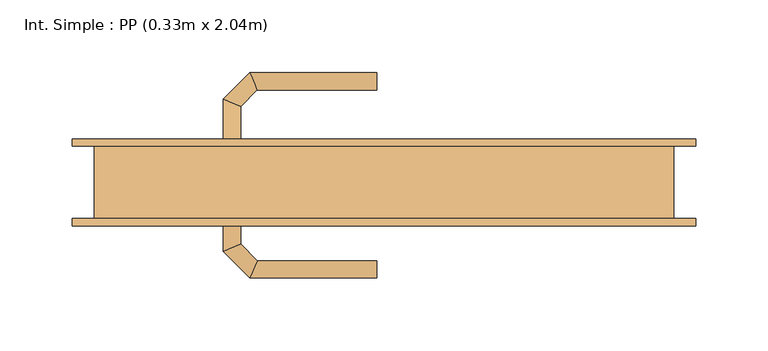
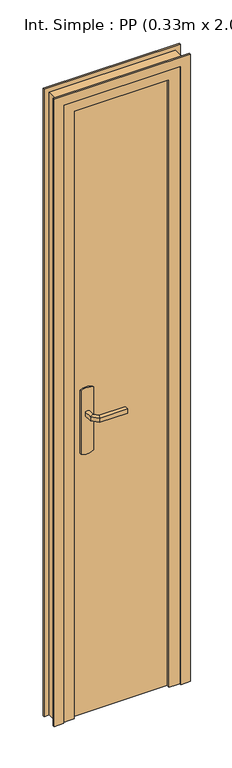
"""IFC4 building model written with IfcOpenShell, lengths in millimetres: door geometry, Int. Simple : PP (0.33m x 2.04m)."""

from ifc_helpers import new_model, si_unit, point, frame, frame_2d, origin, origin_with_axes, place, context, project, spatial, polyline, circle_curve, ellipse_curve, trimmed, segment, composite_curve, outline, extrude, faceted_brep, source, transform, mapped, element, save
from ifc_brep_helpers import plane_surface, cylinder_surface, advanced_brep


def int_simple_pp_0_33m_x_2_04m_a2b4a157(model_context):
    return source(origin(), model_context, "Body", "SolidModel", [
        extrude(outline(composite_curve([segment(trimmed(circle_curve(frame_2d((904.6410162, -140.0)), 40.0), [point((870.0, -160.0))], [point((870.0, -120.0))], False, "CARTESIAN"), True, "CONTINUOUS"), segment(polyline([(870.0, -120.0), (1080.0, -120.0)]), True, "CONTINUOUS"), segment(trimmed(circle_curve(frame_2d((1045.3589838, -140.0)), 40.0), [point((1080.0, -120.0))], [point((1080.0, -160.0))], False, "CARTESIAN"), True, "CONTINUOUS"), segment(polyline([(1080.0, -160.0), (870.0, -160.0)]), True, "CONTINUOUS")], self_intersect=False)), frame((0.0, 25.0, 0.0), z_axis=(0.0, 1.0, 0.0), x_axis=(0.0, 0.0, 1.0)), (0.0, 0.0, 1.0), 5.0),
        extrude(outline(composite_curve([segment(trimmed(circle_curve(frame_2d((1045.3589838, -140.0)), 40.0), [point((1080.0, -120.0))], [point((1080.0, -160.0))], False, "CARTESIAN"), True, "CONTINUOUS"), segment(polyline([(1080.0, -160.0), (870.0, -160.0)]), True, "CONTINUOUS"), segment(trimmed(circle_curve(frame_2d((904.6410162, -140.0)), 40.0), [point((870.0, -160.0))], [point((870.0, -120.0))], False, "CARTESIAN"), True, "CONTINUOUS"), segment(polyline([(870.0, -120.0), (1080.0, -120.0)]), True, "CONTINUOUS")], self_intersect=False)), frame((0.0, -20.0, 0.0), z_axis=(0.0, 1.0, 0.0), x_axis=(0.0, 0.0, 1.0)), (0.0, 0.0, 1.0), 5.0),
        advanced_brep(
        [(-146.0, 30.0, 1007.0), (-146.0, 30.0, 993.0), (-134.0, 30.0, 993.0), (-134.0, 30.0, 1007.0), (-134.0, 52.680388, 1007.0), (-146.0, 57.6509507, 1007.0), (-134.0, 52.680388, 993.0), (-146.0, 57.6509507, 993.0), (-122.6522273, 64.0281607, 1007.0), (-127.62279, 76.0281607, 1007.0), (-122.6522273, 64.0281607, 993.0), (-127.62279, 76.0281607, 993.0), (-39.9813594, 76.0281607, 1007.0), (-39.9813594, 64.0281607, 1007.0), (-39.9813594, 64.0281607, 993.0), (-39.9813594, 76.0281607, 993.0)],
        [
            (0, 1),
            (1, 2, circle_curve(frame((-140.0, 30.0, 1013.0457722), z_axis=(0.0, -1.0, 0.0), x_axis=(1.0, 0.0, 0.0)), 20.9244589)),
            (2, 3),
            (3, 0, circle_curve(frame((-140.0, 30.0, 986.9542278), z_axis=(0.0, -1.0, 0.0), x_axis=(1.0, 0.0, 0.0)), 20.9244589)),
            (3, 4),
            (4, 5, ellipse_curve(frame((-140.0, 55.1656693, 986.9542278), z_axis=(-0.3826834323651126, -0.9238795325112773, 0.0), x_axis=(0.9238795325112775, -0.38268343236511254, 0.0)), 22.6484711, 20.9244589)),
            (5, 0),
            (2, 6),
            (6, 4),
            (1, 7),
            (7, 6, ellipse_curve(frame((-140.0, 55.1656693, 1013.0457722), z_axis=(-0.3826834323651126, -0.9238795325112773, 0.0), x_axis=(0.9238795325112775, -0.38268343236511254, 0.0)), 22.6484711, 20.9244589)),
            (5, 7),
            (4, 8),
            (8, 9, ellipse_curve(frame((-125.1375086, 70.0281607, 986.9542278), z_axis=(-0.9238795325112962, -0.38268343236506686, 0.0), x_axis=(0.3826834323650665, -0.9238795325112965, 0.0)), 22.6484711, 20.9244589)),
            (9, 5),
            (6, 10),
            (10, 8),
            (7, 11),
            (11, 10, ellipse_curve(frame((-125.1375086, 70.0281607, 1013.0457722), z_axis=(-0.9238795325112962, -0.38268343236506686, 0.0), x_axis=(0.3826834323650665, -0.9238795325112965, 0.0)), 22.6484711, 20.9244589)),
            (9, 11),
            (12, 13, circle_curve(frame((-39.9813594, 70.0281607, 986.9542278), z_axis=(1.0, 0.0, 0.0), x_axis=(0.0, -1.0, 0.0)), 20.9244589)),
            (13, 14),
            (14, 15, circle_curve(frame((-39.9813594, 70.0281607, 1013.0457722), z_axis=(1.0, 0.0, 0.0), x_axis=(0.0, -1.0, 0.0)), 20.9244589)),
            (15, 12),
            (8, 13),
            (12, 9),
            (10, 14),
            (11, 15),
        ],
        [
            plane_surface(frame((-149.2195445, 30.0, 1000.0), z_axis=(0.0, -1.0, 0.0), x_axis=(0.0, 0.0, -1.0))),
            cylinder_surface(frame((-140.0, 30.0, 986.9542278), z_axis=(0.0, -1.0, 0.0), x_axis=(1.0, 0.0, 0.0)), 20.9244589),
            plane_surface(frame((-134.0, 30.0, 1007.0), z_axis=(1.0, 0.0, 0.0), x_axis=(0.0, 1.0, 0.0))),
            cylinder_surface(frame((-140.0, 30.0, 1013.0457722), z_axis=(0.0, -1.0, 0.0), x_axis=(1.0, 0.0, 0.0)), 20.9244589),
            plane_surface(frame((-146.0, 30.0, 993.0), z_axis=(-1.0, 0.0, 0.0), x_axis=(0.0, 1.0, 0.0))),
            cylinder_surface(frame((-140.0, 55.1656693, 986.9542278), z_axis=(-0.7071067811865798, -0.7071067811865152, 0.0), x_axis=(0.7071067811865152, -0.7071067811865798, 0.0)), 20.9244589),
            plane_surface(frame((-134.0, 52.680388, 1007.0), z_axis=(0.7071067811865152, -0.7071067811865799, 0.0), x_axis=(0.7071067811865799, 0.7071067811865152, 0.0))),
            cylinder_surface(frame((-140.0, 55.1656693, 1013.0457722), z_axis=(-0.7071067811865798, -0.7071067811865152, 0.0), x_axis=(0.7071067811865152, -0.7071067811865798, 0.0)), 20.9244589),
            plane_surface(frame((-146.0, 57.6509507, 993.0), z_axis=(-0.7071067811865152, 0.7071067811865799, 0.0), x_axis=(0.7071067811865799, 0.7071067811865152, 0.0))),
            plane_surface(frame((-39.9813594, 70.0281607, 990.7804555), z_axis=(1.0, 0.0, 0.0), x_axis=(0.0, -1.0, 0.0))),
            cylinder_surface(frame((-125.1375086, 70.0281607, 986.9542278), z_axis=(-1.0, 0.0, 0.0), x_axis=(0.0, -1.0, 0.0)), 20.9244589),
            plane_surface(frame((-122.6522273, 64.0281607, 1007.0), z_axis=(0.0, -1.0, 0.0), x_axis=(1.0, 0.0, 0.0))),
            cylinder_surface(frame((-125.1375086, 70.0281607, 1013.0457722), z_axis=(-1.0, 0.0, 0.0), x_axis=(0.0, -1.0, 0.0)), 20.9244589),
            plane_surface(frame((-127.62279, 76.0281607, 993.0), z_axis=(0.0, 1.0, 0.0), x_axis=(1.0, 0.0, 0.0))),
        ],
        [
            (0, [[1, 2, 3, 4]]),
            (1, [[5, 6, 7, -4]]),
            (2, [[8, 9, -5, -3]]),
            (3, [[10, 11, -8, -2]]),
            (4, [[-7, 12, -10, -1]]),
            (5, [[13, 14, 15, -6]]),
            (6, [[16, 17, -13, -9]]),
            (7, [[18, 19, -16, -11]]),
            (8, [[-15, 20, -18, -12]]),
            (9, [[21, 22, 23, 24]]),
            (10, [[25, -21, 26, -14]]),
            (11, [[27, -22, -25, -17]]),
            (12, [[28, -23, -27, -19]]),
            (13, [[-26, -24, -28, -20]]),
        ],
    ),
        advanced_brep(
        [(-134.0, -20.0, 993.0), (-146.0, -20.0, 993.0), (-146.0, -20.0, 1007.0), (-134.0, -20.0, 1007.0), (-134.0, -42.4852045, 1007.0), (-134.0, -42.4852045, 993.0), (-146.0, -47.4557673, 1007.0), (-146.0, -47.4557673, 993.0), (-122.5147186, -53.9704859, 1007.0), (-122.5147186, -53.9704859, 993.0), (-127.4852814, -65.9704859, 1007.0), (-127.4852814, -65.9704859, 993.0), (-39.9542163, -53.9704859, 993.0), (-39.9542163, -53.9704859, 1007.0), (-39.9542163, -65.9704859, 1007.0), (-39.9542163, -65.9704859, 993.0)],
        [
            (0, 1, circle_curve(frame((-140.0, -20.0, 1013.0457722), z_axis=(0.0, 1.0, 0.0), x_axis=(-1.0, 0.0, 0.0)), 20.9244589)),
            (1, 2),
            (2, 3, circle_curve(frame((-140.0, -20.0, 986.9542278), z_axis=(0.0, 1.0, 0.0), x_axis=(-1.0, 0.0, 0.0)), 20.9244589)),
            (3, 0),
            (3, 4),
            (4, 5),
            (5, 0),
            (2, 6),
            (6, 4, ellipse_curve(frame((-140.0, -44.9704859, 986.9542278), z_axis=(-0.3826834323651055, 0.9238795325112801, 0.0), x_axis=(0.9238795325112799, 0.3826834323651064, 0.0)), 22.6484711, 20.9244589)),
            (1, 7),
            (7, 6),
            (5, 7, ellipse_curve(frame((-140.0, -44.9704859, 1013.0457722), z_axis=(-0.3826834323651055, 0.9238795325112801, 0.0), x_axis=(0.9238795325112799, 0.3826834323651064, 0.0)), 22.6484711, 20.9244589)),
            (4, 8),
            (8, 9),
            (9, 5),
            (6, 10),
            (10, 8, ellipse_curve(frame((-125.0, -59.9704859, 986.9542278), z_axis=(-0.9238795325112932, 0.382683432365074, 0.0), x_axis=(0.3826834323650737, 0.9238795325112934, 0.0)), 22.6484711, 20.9244589)),
            (7, 11),
            (11, 10),
            (9, 11, ellipse_curve(frame((-125.0, -59.9704859, 1013.0457722), z_axis=(-0.9238795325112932, 0.382683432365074, 0.0), x_axis=(0.3826834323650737, 0.9238795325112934, 0.0)), 22.6484711, 20.9244589)),
            (12, 13),
            (13, 14, circle_curve(frame((-39.9542163, -59.9704859, 986.9542278), z_axis=(1.0, 0.0, 0.0), x_axis=(0.0, -1.0, 0.0)), 20.9244589)),
            (14, 15),
            (15, 12, circle_curve(frame((-39.9542163, -59.9704859, 1013.0457722), z_axis=(1.0, 0.0, 0.0), x_axis=(0.0, -1.0, 0.0)), 20.9244589)),
            (8, 13),
            (12, 9),
            (10, 14),
            (11, 15),
        ],
        [
            plane_surface(frame((-149.2195445, -20.0, 1000.0), z_axis=(0.0, 1.0, 0.0), x_axis=(0.0, 0.0, 1.0))),
            plane_surface(frame((-134.0, -20.0, 993.0), z_axis=(1.0, 0.0, 0.0), x_axis=(0.0, -1.0, 0.0))),
            cylinder_surface(frame((-140.0, -20.0, 986.9542278), z_axis=(0.0, 1.0, 0.0), x_axis=(-1.0, 0.0, 0.0)), 20.9244589),
            plane_surface(frame((-146.0, -20.0, 1007.0), z_axis=(-1.0, 0.0, 0.0), x_axis=(0.0, -1.0, 0.0))),
            cylinder_surface(frame((-140.0, -20.0, 1013.0457722), z_axis=(0.0, 1.0, 0.0), x_axis=(-1.0, 0.0, 0.0)), 20.9244589),
            plane_surface(frame((-134.0, -42.4852045, 993.0), z_axis=(0.7071067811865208, 0.7071067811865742, 0.0), x_axis=(0.7071067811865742, -0.7071067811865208, 0.0))),
            cylinder_surface(frame((-140.0, -44.9704859, 986.9542278), z_axis=(-0.7071067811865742, 0.7071067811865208, 0.0), x_axis=(-0.7071067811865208, -0.7071067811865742, 0.0)), 20.9244589),
            plane_surface(frame((-146.0, -47.4557673, 1007.0), z_axis=(-0.7071067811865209, -0.7071067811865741, 0.0), x_axis=(0.7071067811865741, -0.7071067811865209, 0.0))),
            cylinder_surface(frame((-140.0, -44.9704859, 1013.0457722), z_axis=(-0.7071067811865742, 0.7071067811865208, 0.0), x_axis=(-0.7071067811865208, -0.7071067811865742, 0.0)), 20.9244589),
            plane_surface(frame((-39.9542163, -59.9704859, 990.7804555), z_axis=(1.0, 0.0, 0.0), x_axis=(0.0, -1.0, 0.0))),
            plane_surface(frame((-122.5147186, -53.9704859, 993.0), z_axis=(0.0, 1.0, 0.0), x_axis=(1.0, 0.0, 0.0))),
            cylinder_surface(frame((-125.0, -59.9704859, 986.9542278), z_axis=(-1.0, 0.0, 0.0), x_axis=(0.0, -1.0, 0.0)), 20.9244589),
            plane_surface(frame((-127.4852814, -65.9704859, 1007.0), z_axis=(0.0, -1.0, 0.0), x_axis=(1.0, 0.0, 0.0))),
            cylinder_surface(frame((-125.0, -59.9704859, 1013.0457722), z_axis=(-1.0, 0.0, 0.0), x_axis=(0.0, -1.0, 0.0)), 20.9244589),
        ],
        [
            (0, [[1, 2, 3, 4]]),
            (1, [[5, 6, 7, -4]]),
            (2, [[8, 9, -5, -3]]),
            (3, [[10, 11, -8, -2]]),
            (4, [[-7, 12, -10, -1]]),
            (5, [[13, 14, 15, -6]]),
            (6, [[16, 17, -13, -9]]),
            (7, [[18, 19, -16, -11]]),
            (8, [[-15, 20, -18, -12]]),
            (9, [[21, 22, 23, 24]]),
            (10, [[25, -21, 26, -14]]),
            (11, [[27, -22, -25, -17]]),
            (12, [[28, -23, -27, -19]]),
            (13, [[-26, -24, -28, -20]]),
        ],
    ),
        extrude(outline(polyline([(-200.0, -15.0), (-200.0, 25.0), (130.0, 25.0), (130.0, -15.0), (-200.0, -15.0)])), origin_with_axes(), (0.0, 0.0, 1.0), 2040.0),
        faceted_brep([(-235.0, 25.0, 0.0), (-200.0, 25.0, 0.0), (-200.0, -15.0, 0.0), (-185.0, -15.0, 0.0), (-185.0, -25.0, 0.0), (-235.0, -25.0, 0.0), (-235.0, -25.0, 2075.0), (-235.0, 25.0, 2075.0), (-185.0, -25.0, 2025.0), (115.0, -25.0, 2025.0), (115.0, -25.0, 0.0), (165.0, -25.0, 0.0), (165.0, -25.0, 2075.0), (-185.0, -15.0, 2025.0), (-200.0, -15.0, 2040.0), (130.0, -15.0, 2040.0), (130.0, -15.0, 0.0), (115.0, -15.0, 0.0), (115.0, -15.0, 2025.0), (-200.0, 25.0, 2040.0), (165.0, 25.0, 2075.0), (165.0, 25.0, 0.0), (130.0, 25.0, 0.0), (130.0, 25.0, 2040.0)], [[[0, 1, 2, 3, 4, 5]], [[5, 6, 7, 0]], [[4, 8, 9, 10, 11, 12, 6, 5]], [[3, 13, 8, 4]], [[2, 14, 15, 16, 17, 18, 13, 3]], [[1, 19, 14, 2]], [[0, 7, 20, 21, 22, 23, 19, 1]], [[12, 11, 21, 20]], [[21, 11, 10, 17, 16, 22]], [[18, 17, 10, 9]], [[23, 22, 16, 15]], [[6, 12, 20, 7]], [[13, 18, 9, 8]], [[19, 23, 15, 14]]]),
        extrude(outline(polyline([(0.0, -220.0), (2060.0, -220.0), (2060.0, 150.0), (0.0, 150.0), (0.0, 180.0), (2090.0, 180.0), (2090.0, -250.0), (0.0, -250.0), (0.0, -220.0)])), frame((0.0, 25.0, 0.0), z_axis=(0.0, 1.0, 0.0), x_axis=(0.0, 0.0, 1.0)), (0.0, 0.0, 1.0), 5.0),
        extrude(outline(polyline([(0.0, -220.0), (2060.0, -220.0), (2060.0, 150.0), (0.0, 150.0), (0.0, 180.0), (2090.0, 180.0), (2090.0, -250.0), (0.0, -250.0), (0.0, -220.0)])), frame((0.0, -30.0, 0.0), z_axis=(0.0, 1.0, 0.0), x_axis=(0.0, 0.0, 1.0)), (0.0, 0.0, 1.0), 5.0),
    ])


if __name__ == "__main__":
    model = new_model("IFC4")
    model_context = context("Model", 3, world=origin())
    ifc_project = project(units=[si_unit("LENGTHUNIT", "METRE", prefix="MILLI")], contexts=[model_context])
    site = spatial("IfcSite", under=ifc_project)
    building = spatial("IfcBuilding", under=site)
    placement = place(None, origin())
    int_simple_pp_0_33m_x_2_04m_shape = int_simple_pp_0_33m_x_2_04m_a2b4a157(model_context)
    element("IfcDoor", 1, ObjectType="Int. Simple : PP (0.33m x 2.04m)", at=placement, inside=building, context=model_context, shape_type="MappedRepresentation", body=[
        mapped(int_simple_pp_0_33m_x_2_04m_shape, transform((0.0, 0.0, 0.0), x_axis=(1.0, 0.0, 0.0), y_axis=(0.0, 1.0, 0.0), z_axis=(0.0, 0.0, 1.0))),
    ])
    save(model, "model.ifc")
